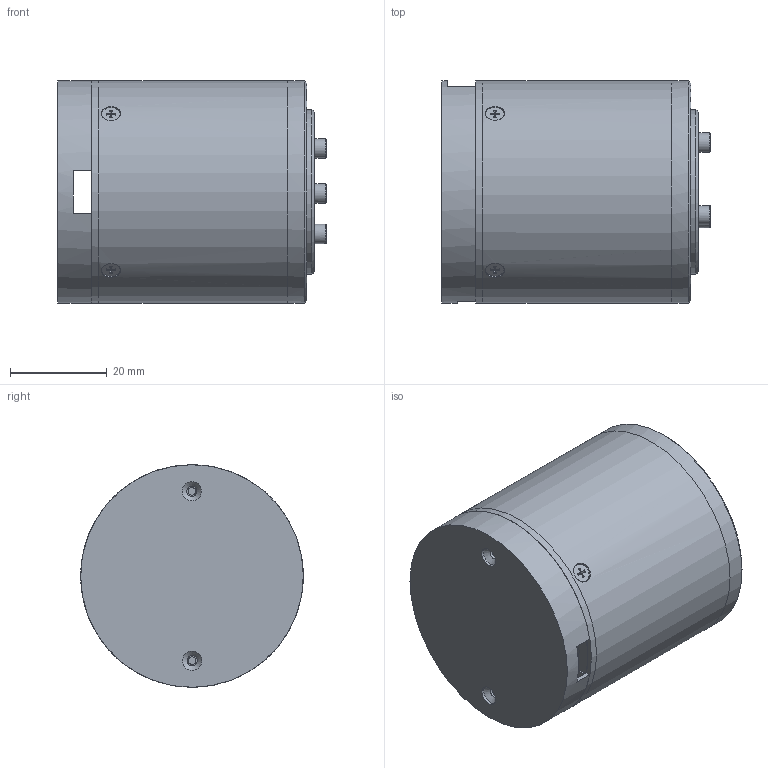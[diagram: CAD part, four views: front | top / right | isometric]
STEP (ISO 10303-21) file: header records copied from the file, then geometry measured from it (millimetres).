
FILE_DESCRIPTION(/* description */ (''),/* implementation_level */ '2;1');
FILE_NAME(/* name */ '',/* time_stamp */ '2024-11-08T22:33:53+08:00',/* author */ ('12505'),/* organization */ (''),/* preprocessor_version */ 'ST-DEVELOPER v19.2',/* originating_system */ 'Autodesk Inventor 2024',/* authorisation */ '');
FILE_SCHEMA (('CONFIG_CONTROL_DESIGN'));
Length unit declared in the file: millimetre
Products named in the file (3): 3510-8安装图; 3510-8_简化_1; V17驱动盖
Assembly tree (2 placements, depth 2):
  3510-8安装图
    3510-8_简化_1
    V17驱动盖
Bounding box: 55.5 x 46 x 46 mm (x, y, z)
Volume: 73825 mm3; surface area: 17568.5 mm2
Topology: 2 solids, 2 shells, 613 faces, 1646 edges, 1084 vertices
Faces by surface type: plane 224, cone 163, cylinder 146, torus 56, bspline 24
Full cylindrical faces by diameter (mm): 1.567 x6, 1.74 x4, 2.013 x8, 2.1 x2, 2.459 x6, 2.5 x4, 3 x1, 3.8 x12, 4 x17, 5 x1, 5.5 x3, 5.7 x3, 6 x1, 8 x1, 9 x2, 32 x1, 34 x1, 34.2 x1, 44 x1, 46 x2
Entity records: 22239 total; most frequent: CARTESIAN_POINT 6939, ORIENTED_EDGE 3262, DIRECTION 2901, EDGE_CURVE 1631, AXIS2_PLACEMENT_3D 1205, VERTEX_POINT 1084, EDGE_LOOP 695, FACE_OUTER_BOUND 613
